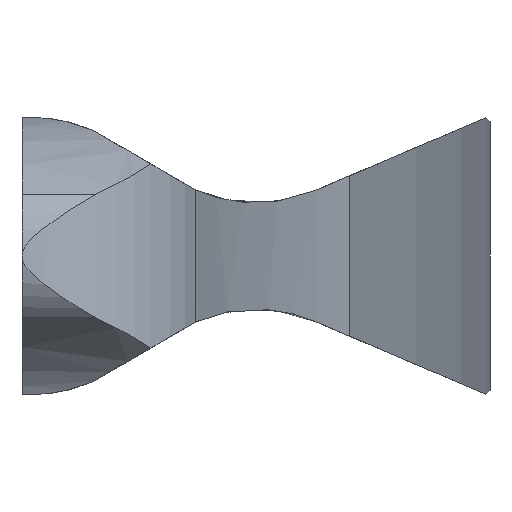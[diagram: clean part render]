
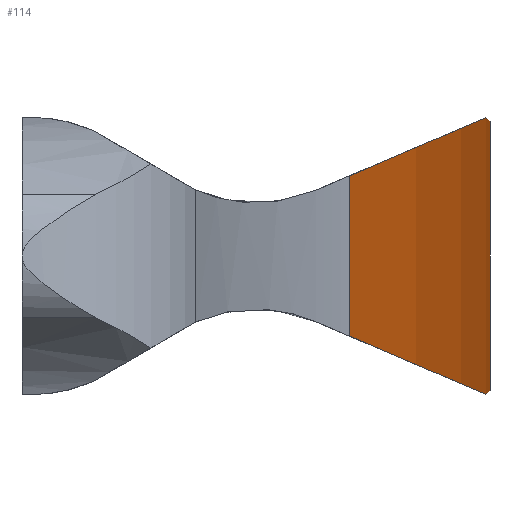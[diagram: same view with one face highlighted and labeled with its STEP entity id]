
A CAD part, left-side view. The second image highlights one B-rep face of the part: STEP entity #114.
In plain terms, the highlighted cylindrical face has radius 119.562 mm (diameter 239.125 mm), a partial arc.
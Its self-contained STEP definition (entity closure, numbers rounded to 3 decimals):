
#114 = ADVANCED_FACE( '', ( #199 ), #200, .T. );
#199 = FACE_OUTER_BOUND( '', #289, .T. );
#200 = CYLINDRICAL_SURFACE( '', #290, 119.563 );
#289 = EDGE_LOOP( '', ( #614, #615, #616, #617, #618, #619, #620, #621, #622, #623 ) );
#290 = AXIS2_PLACEMENT_3D( '', #624, #625, #626 );
#614 = ORIENTED_EDGE( '', *, *, #756, .T. );
#615 = ORIENTED_EDGE( '', *, *, #768, .T. );
#616 = ORIENTED_EDGE( '', *, *, #769, .T. );
#617 = ORIENTED_EDGE( '', *, *, #754, .T. );
#618 = ORIENTED_EDGE( '', *, *, #789, .T. );
#619 = ORIENTED_EDGE( '', *, *, #784, .T. );
#620 = ORIENTED_EDGE( '', *, *, #770, .T. );
#621 = ORIENTED_EDGE( '', *, *, #772, .T. );
#622 = ORIENTED_EDGE( '', *, *, #783, .T. );
#623 = ORIENTED_EDGE( '', *, *, #790, .F. );
#624 = CARTESIAN_POINT( '', ( 48., 97.563, 20. ) );
#625 = DIRECTION( '', ( 0., 0., 1. ) );
#626 = DIRECTION( '', ( -0.328, -0.945, 0. ) );
#754 = EDGE_CURVE( '', #935, #933, #936, .T. );
#756 = EDGE_CURVE( '', #939, #937, #940, .T. );
#768 = EDGE_CURVE( '', #937, #958, #959, .T. );
#769 = EDGE_CURVE( '', #958, #935, #960, .T. );
#770 = EDGE_CURVE( '', #961, #962, #963, .T. );
#772 = EDGE_CURVE( '', #962, #964, #966, .T. );
#783 = EDGE_CURVE( '', #964, #980, #982, .T. );
#784 = EDGE_CURVE( '', #983, #961, #984, .T. );
#789 = EDGE_CURVE( '', #933, #983, #989, .T. );
#790 = EDGE_CURVE( '', #939, #980, #990, .T. );
#933 = VERTEX_POINT( '', #1381 );
#935 = VERTEX_POINT( '', #1383 );
#936 = ELLIPSE( '', #1384, 130., 119.563 );
#937 = VERTEX_POINT( '', #1385 );
#939 = VERTEX_POINT( '', #1388 );
#940 = ELLIPSE( '', #1389, 130., 119.563 );
#958 = VERTEX_POINT( '', #1450 );
#959 = B_SPLINE_CURVE_WITH_KNOTS( '', 3, ( #1451, #1452, #1453, #1454, #1455, #1456, #1457, #1458, #1459, #1460 ), .UNSPECIFIED., .F., .F., ( 4, 2, 2, 2, 4 ), ( 11.93, 13.418, 14.906, 16.662, 18.418 ), .UNSPECIFIED. );
#960 = B_SPLINE_CURVE_WITH_KNOTS( '', 3, ( #1461, #1462, #1463, #1464, #1465, #1466, #1467, #1468, #1469, #1470 ), .UNSPECIFIED., .F., .F., ( 4, 2, 2, 2, 4 ), ( 0., 1.756, 3.512, 5., 6.488 ), .UNSPECIFIED. );
#961 = VERTEX_POINT( '', #1471 );
#962 = VERTEX_POINT( '', #1472 );
#963 = B_SPLINE_CURVE_WITH_KNOTS( '', 3, ( #1473, #1474, #1475, #1476, #1477, #1478, #1479, #1480, #1481, #1482 ), .UNSPECIFIED., .F., .F., ( 4, 2, 2, 2, 4 ), ( 11.93, 13.418, 14.906, 16.662, 18.418 ), .UNSPECIFIED. );
#964 = VERTEX_POINT( '', #1483 );
#966 = B_SPLINE_CURVE_WITH_KNOTS( '', 3, ( #1486, #1487, #1488, #1489, #1490, #1491, #1492, #1493, #1494, #1495 ), .UNSPECIFIED., .F., .F., ( 4, 2, 2, 2, 4 ), ( 0., 1.756, 3.512, 5., 6.488 ), .UNSPECIFIED. );
#980 = VERTEX_POINT( '', #1538 );
#982 = ELLIPSE( '', #1540, 130., 119.563 );
#983 = VERTEX_POINT( '', #1541 );
#984 = ELLIPSE( '', #1542, 130., 119.563 );
#989 = LINE( '', #1550, #1551 );
#990 = LINE( '', #1552, #1553 );
#1381 = CARTESIAN_POINT( '', ( 8.75, -15.374, 3.757 ) );
#1383 = CARTESIAN_POINT( '', ( 41.087, -21.8, 6.5 ) );
#1384 = AXIS2_PLACEMENT_3D( '', #1681, #1682, #1683 );
#1385 = CARTESIAN_POINT( '', ( 54.913, -21.8, 6.5 ) );
#1388 = CARTESIAN_POINT( '', ( 87.25, -15.374, 3.757 ) );
#1389 = AXIS2_PLACEMENT_3D( '', #1685, #1686, #1687 );
#1450 = CARTESIAN_POINT( '', ( 48., -22., 6.3 ) );
#1451 = CARTESIAN_POINT( '', ( 54.913, -21.8, 6.5 ) );
#1452 = CARTESIAN_POINT( '', ( 54.417, -21.829, 6.5 ) );
#1453 = CARTESIAN_POINT( '', ( 53.873, -21.857, 6.494 ) );
#1454 = CARTESIAN_POINT( '', ( 52.783, -21.906, 6.472 ) );
#1455 = CARTESIAN_POINT( '', ( 52.238, -21.926, 6.457 ) );
#1456 = CARTESIAN_POINT( '', ( 51.158, -21.96, 6.423 ) );
#1457 = CARTESIAN_POINT( '', ( 50.514, -21.975, 6.4 ) );
#1458 = CARTESIAN_POINT( '', ( 49.228, -21.995, 6.35 ) );
#1459 = CARTESIAN_POINT( '', ( 48.585, -22., 6.324 ) );
#1460 = CARTESIAN_POINT( '', ( 48., -22., 6.3 ) );
#1461 = CARTESIAN_POINT( '', ( 48., -22., 6.3 ) );
#1462 = CARTESIAN_POINT( '', ( 47.415, -22., 6.324 ) );
#1463 = CARTESIAN_POINT( '', ( 46.772, -21.995, 6.35 ) );
#1464 = CARTESIAN_POINT( '', ( 45.486, -21.975, 6.4 ) );
#1465 = CARTESIAN_POINT( '', ( 44.842, -21.96, 6.423 ) );
#1466 = CARTESIAN_POINT( '', ( 43.762, -21.926, 6.457 ) );
#1467 = CARTESIAN_POINT( '', ( 43.217, -21.906, 6.472 ) );
#1468 = CARTESIAN_POINT( '', ( 42.127, -21.857, 6.494 ) );
#1469 = CARTESIAN_POINT( '', ( 41.583, -21.829, 6.5 ) );
#1470 = CARTESIAN_POINT( '', ( 41.087, -21.8, 6.5 ) );
#1471 = CARTESIAN_POINT( '', ( 41.087, -21.8, -6.5 ) );
#1472 = CARTESIAN_POINT( '', ( 48., -22., -6.3 ) );
#1473 = CARTESIAN_POINT( '', ( 41.087, -21.8, -6.5 ) );
#1474 = CARTESIAN_POINT( '', ( 41.583, -21.829, -6.5 ) );
#1475 = CARTESIAN_POINT( '', ( 42.127, -21.857, -6.494 ) );
#1476 = CARTESIAN_POINT( '', ( 43.217, -21.906, -6.472 ) );
#1477 = CARTESIAN_POINT( '', ( 43.762, -21.926, -6.457 ) );
#1478 = CARTESIAN_POINT( '', ( 44.842, -21.96, -6.423 ) );
#1479 = CARTESIAN_POINT( '', ( 45.486, -21.975, -6.4 ) );
#1480 = CARTESIAN_POINT( '', ( 46.772, -21.995, -6.35 ) );
#1481 = CARTESIAN_POINT( '', ( 47.415, -22., -6.324 ) );
#1482 = CARTESIAN_POINT( '', ( 48., -22., -6.3 ) );
#1483 = CARTESIAN_POINT( '', ( 54.913, -21.8, -6.5 ) );
#1486 = CARTESIAN_POINT( '', ( 48., -22., -6.3 ) );
#1487 = CARTESIAN_POINT( '', ( 48.585, -22., -6.324 ) );
#1488 = CARTESIAN_POINT( '', ( 49.228, -21.995, -6.35 ) );
#1489 = CARTESIAN_POINT( '', ( 50.514, -21.975, -6.4 ) );
#1490 = CARTESIAN_POINT( '', ( 51.158, -21.96, -6.423 ) );
#1491 = CARTESIAN_POINT( '', ( 52.238, -21.926, -6.457 ) );
#1492 = CARTESIAN_POINT( '', ( 52.783, -21.906, -6.472 ) );
#1493 = CARTESIAN_POINT( '', ( 53.873, -21.857, -6.494 ) );
#1494 = CARTESIAN_POINT( '', ( 54.417, -21.829, -6.5 ) );
#1495 = CARTESIAN_POINT( '', ( 54.913, -21.8, -6.5 ) );
#1538 = CARTESIAN_POINT( '', ( 87.25, -15.374, -3.757 ) );
#1540 = AXIS2_PLACEMENT_3D( '', #1721, #1722, #1723 );
#1541 = CARTESIAN_POINT( '', ( 8.75, -15.374, -3.757 ) );
#1542 = AXIS2_PLACEMENT_3D( '', #1724, #1725, #1726 );
#1550 = CARTESIAN_POINT( '', ( 8.75, -15.374, 20. ) );
#1551 = VECTOR( '', #1733, 1. );
#1552 = CARTESIAN_POINT( '', ( 87.25, -15.374, 20. ) );
#1553 = VECTOR( '', #1734, 1. );
#1681 = CARTESIAN_POINT( '', ( 48., 97.563, -44.453 ) );
#1682 = DIRECTION( '', ( 0., -0.393, -0.92 ) );
#1683 = DIRECTION( '', ( 0., -0.92, 0.393 ) );
#1685 = CARTESIAN_POINT( '', ( 48., 97.563, -44.453 ) );
#1686 = DIRECTION( '', ( 0., -0.393, -0.92 ) );
#1687 = DIRECTION( '', ( 0., -0.92, 0.393 ) );
#1721 = CARTESIAN_POINT( '', ( 48., 97.563, 44.453 ) );
#1722 = DIRECTION( '', ( 0., -0.393, 0.92 ) );
#1723 = DIRECTION( '', ( 0., -0.92, -0.393 ) );
#1724 = CARTESIAN_POINT( '', ( 48., 97.563, 44.453 ) );
#1725 = DIRECTION( '', ( 0., -0.393, 0.92 ) );
#1726 = DIRECTION( '', ( 0., -0.92, -0.393 ) );
#1733 = DIRECTION( '', ( 0., 0., -1. ) );
#1734 = DIRECTION( '', ( 0., 0., -1. ) );
